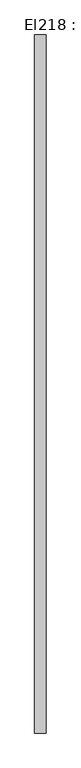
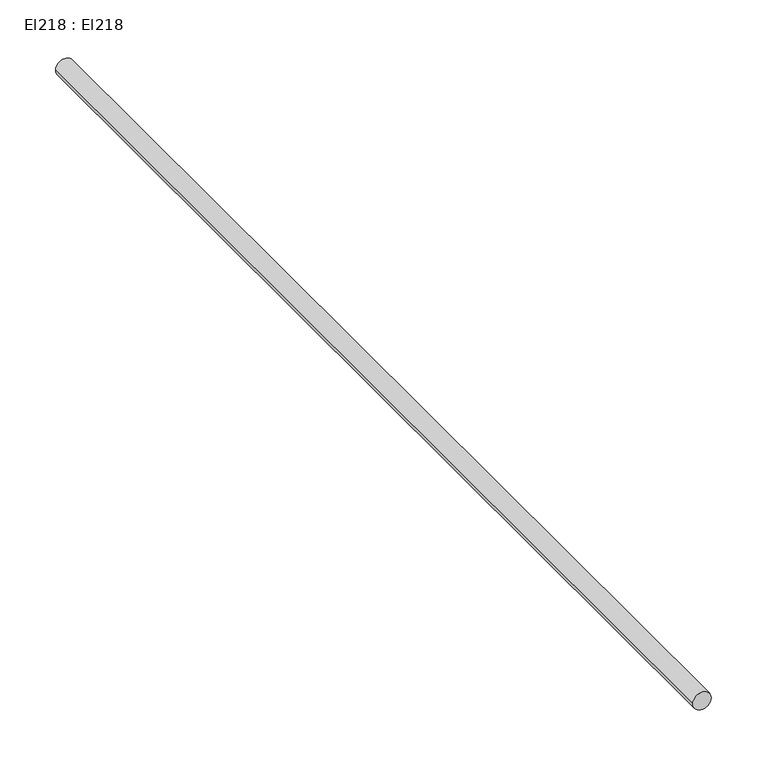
"""IFC4 building model written with IfcOpenShell, lengths in millimetres: cable carrier segment geometry, El218 : El218."""

from ifc_helpers import new_model, si_unit, point, frame, frame_2d, origin, place, context, project, spatial, circle_curve, trimmed, segment, composite_curve, outline, extrude, source, transform, mapped, element, save


def el218_el218_75911309(model_context):
    return source(origin(), model_context, "Body", "SweptSolid", [
        extrude(outline(composite_curve([segment(trimmed(circle_curve(frame_2d((1200.0, 3900.0)), 9.5), [point((1200.0, 3890.5))], [point((1200.0, 3909.5))], False, "CARTESIAN"), True, "CONTINUOUS"), segment(trimmed(circle_curve(frame_2d((1200.0, 3900.0)), 9.5), [point((1200.0, 3909.5))], [point((1200.0, 3890.5))], False, "CARTESIAN"), True, "CONTINUOUS")], self_intersect=False)), frame((0.0, 23673.229, 0.0), z_axis=(0.0, 1.0, 0.0), x_axis=(0.0, 0.0, 1.0)), (0.0, 0.0, 1.0), 1148.34),
    ])


if __name__ == "__main__":
    model = new_model("IFC4")
    model_context = context("Model", 3, world=origin())
    ifc_project = project(units=[si_unit("LENGTHUNIT", "METRE", prefix="MILLI")], contexts=[model_context])
    site = spatial("IfcSite", under=ifc_project)
    building = spatial("IfcBuilding", under=site)
    placement = place(None, origin())
    el218_el218_shape = el218_el218_75911309(model_context)
    element("IfcCableCarrierSegment", 1, ObjectType="El218 : El218", at=placement, inside=building, context=model_context, shape_type="MappedRepresentation", body=[
        mapped(el218_el218_shape, transform((0.0, 0.0, 0.0), x_axis=(1.0, 0.0, 0.0), y_axis=(0.0, 1.0, 0.0), z_axis=(0.0, 0.0, 1.0))),
    ])
    save(model, "model.ifc")
